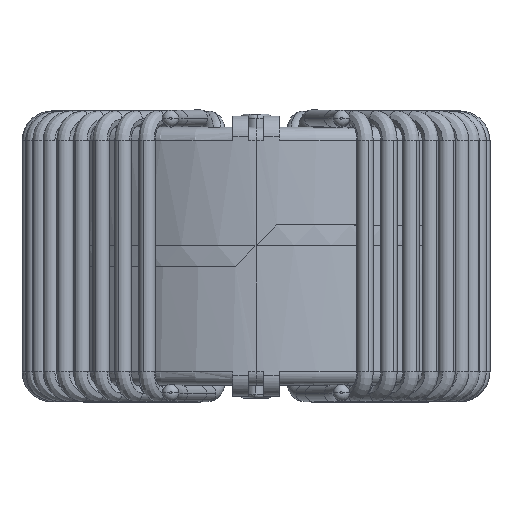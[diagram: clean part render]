
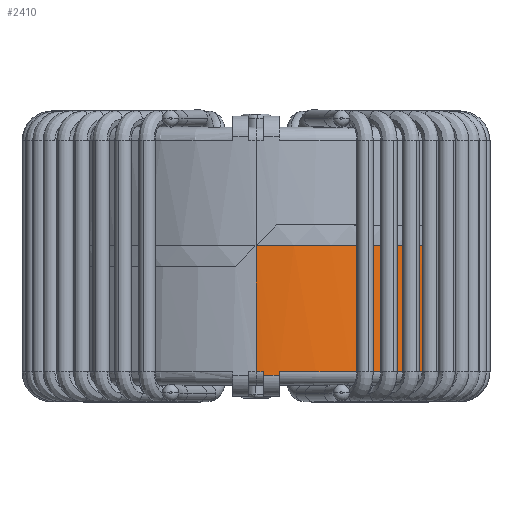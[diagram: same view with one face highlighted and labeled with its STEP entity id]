
A CAD part, top view. The second image highlights one B-rep face of the part: STEP entity #2410.
In plain terms, the highlighted cylindrical face has radius 10.6 mm (diameter 21.2 mm), a partial arc.
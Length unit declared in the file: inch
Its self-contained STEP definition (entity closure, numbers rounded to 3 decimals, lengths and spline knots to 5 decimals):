
#278 = VECTOR ( 'NONE', #5759, 39.37008 ) ;
#494 = DIRECTION ( 'NONE',  ( 0., -1., 0. ) ) ;
#837 = DIRECTION ( 'NONE',  ( 0., 0., 1. ) ) ;
#1098 = AXIS2_PLACEMENT_3D ( 'NONE', #17716, #2067, #837 ) ;
#2067 = DIRECTION ( 'NONE',  ( 0., 1., 0. ) ) ;
#2249 = EDGE_CURVE ( 'NONE', #38046, #4300, #4478, .T. ) ;
#2410 = ADVANCED_FACE ( 'NONE', ( #32031 ), #27023, .T. ) ;
#2543 = VERTEX_POINT ( 'NONE', #14022 ) ;
#2873 = VECTOR ( 'NONE', #6278, 39.37008 ) ;
#2923 = ORIENTED_EDGE ( 'NONE', *, *, #5290, .F. ) ;
#3090 = VECTOR ( 'NONE', #494, 39.37008 ) ;
#4300 = VERTEX_POINT ( 'NONE', #6267 ) ;
#4345 = VERTEX_POINT ( 'NONE', #36290 ) ;
#4478 = LINE ( 'NONE', #9454, #11757 ) ;
#4542 = CARTESIAN_POINT ( 'NONE',  ( 0., 0.24671, 0. ) ) ;
#4811 = ORIENTED_EDGE ( 'NONE', *, *, #30402, .F. ) ;
#5145 = DIRECTION ( 'NONE',  ( 0., 0., 1. ) ) ;
#5182 = DIRECTION ( 'NONE',  ( 0., 0., 1. ) ) ;
#5290 = EDGE_CURVE ( 'NONE', #6655, #13162, #30756, .T. ) ;
#5759 = DIRECTION ( 'NONE',  ( 0., -1., 0. ) ) ;
#6267 = CARTESIAN_POINT ( 'NONE',  ( 0.04429, -0.22835, -0.41497 ) ) ;
#6278 = DIRECTION ( 'NONE',  ( 0., -1., 0. ) ) ;
#6356 = DIRECTION ( 'NONE',  ( 0., -1., 0. ) ) ;
#6394 = DIRECTION ( 'NONE',  ( 0., 1., 0. ) ) ;
#6655 = VERTEX_POINT ( 'NONE', #22493 ) ;
#6715 = AXIS2_PLACEMENT_3D ( 'NONE', #4542, #35757, #10839 ) ;
#6997 = LINE ( 'NONE', #11419, #22985 ) ;
#7267 = EDGE_CURVE ( 'NONE', #2543, #35714, #20239, .T. ) ;
#7640 = DIRECTION ( 'NONE',  ( 0., -1., 0. ) ) ;
#7769 = CIRCLE ( 'NONE', #19966, 0.41732 ) ;
#7991 = CIRCLE ( 'NONE', #1098, 0.41732 ) ;
#8044 = EDGE_CURVE ( 'NONE', #22014, #38046, #7769, .T. ) ;
#9126 = CARTESIAN_POINT ( 'NONE',  ( 0., -0.22112, 0. ) ) ;
#9372 = EDGE_CURVE ( 'NONE', #35714, #26472, #24212, .T. ) ;
#9401 = CARTESIAN_POINT ( 'NONE',  ( 0., -0.22112, 0. ) ) ;
#9454 = CARTESIAN_POINT ( 'NONE',  ( 0.04429, 0.26772, -0.41497 ) ) ;
#9681 = CARTESIAN_POINT ( 'NONE',  ( 0.01476, -0.22835, 0.41706 ) ) ;
#10323 = ORIENTED_EDGE ( 'NONE', *, *, #2249, .T. ) ;
#10727 = DIRECTION ( 'NONE',  ( 0., -1., 0. ) ) ;
#10839 = DIRECTION ( 'NONE',  ( 0., 0., -1. ) ) ;
#11405 = CARTESIAN_POINT ( 'NONE',  ( 0., 0.24671, -0.41732 ) ) ;
#11419 = CARTESIAN_POINT ( 'NONE',  ( 0., 0.24671, 0.41732 ) ) ;
#11711 = ORIENTED_EDGE ( 'NONE', *, *, #29955, .T. ) ;
#11757 = VECTOR ( 'NONE', #10727, 39.37008 ) ;
#12213 = ORIENTED_EDGE ( 'NONE', *, *, #15375, .T. ) ;
#12439 = AXIS2_PLACEMENT_3D ( 'NONE', #19249, #37394, #38642 ) ;
#12860 = VECTOR ( 'NONE', #6356, 39.37008 ) ;
#13162 = VERTEX_POINT ( 'NONE', #37148 ) ;
#13192 = VERTEX_POINT ( 'NONE', #35286 ) ;
#14022 = CARTESIAN_POINT ( 'NONE',  ( 0., -0.22112, 0.41732 ) ) ;
#14133 = ORIENTED_EDGE ( 'NONE', *, *, #27937, .T. ) ;
#14193 = DIRECTION ( 'NONE',  ( 0., 0., 1. ) ) ;
#14395 = VERTEX_POINT ( 'NONE', #16660 ) ;
#14678 = ORIENTED_EDGE ( 'NONE', *, *, #22455, .F. ) ;
#14697 = CARTESIAN_POINT ( 'NONE',  ( 0.04429, 0.26772, 0.41497 ) ) ;
#15183 = CARTESIAN_POINT ( 'NONE',  ( 0.04429, -0.22112, 0.41497 ) ) ;
#15191 = VERTEX_POINT ( 'NONE', #38645 ) ;
#15375 = EDGE_CURVE ( 'NONE', #26472, #24551, #31520, .T. ) ;
#15461 = ORIENTED_EDGE ( 'NONE', *, *, #35275, .F. ) ;
#16072 = ORIENTED_EDGE ( 'NONE', *, *, #27063, .F. ) ;
#16660 = CARTESIAN_POINT ( 'NONE',  ( 0., 0.02008, -0.41732 ) ) ;
#16744 = ORIENTED_EDGE ( 'NONE', *, *, #22502, .T. ) ;
#17371 = CARTESIAN_POINT ( 'NONE',  ( 0.01476, 0.26772, 0.41706 ) ) ;
#17716 = CARTESIAN_POINT ( 'NONE',  ( 0., 0.02008, 0. ) ) ;
#17781 = CIRCLE ( 'NONE', #25153, 0.41732 ) ;
#18574 = EDGE_CURVE ( 'NONE', #15191, #2543, #6997, .T. ) ;
#18706 = VERTEX_POINT ( 'NONE', #24570 ) ;
#19249 = CARTESIAN_POINT ( 'NONE',  ( 0., -0.22835, 0. ) ) ;
#19422 = CARTESIAN_POINT ( 'NONE',  ( 0., 0.24671, 0.41732 ) ) ;
#19677 = DIRECTION ( 'NONE',  ( 0., -1., 0. ) ) ;
#19966 = AXIS2_PLACEMENT_3D ( 'NONE', #9126, #31014, #14193 ) ;
#20180 = LINE ( 'NONE', #32078, #21833 ) ;
#20194 = DIRECTION ( 'NONE',  ( 0., 1., 0. ) ) ;
#20239 = CIRCLE ( 'NONE', #26459, 0.41732 ) ;
#21578 = AXIS2_PLACEMENT_3D ( 'NONE', #29572, #20194, #5182 ) ;
#21833 = VECTOR ( 'NONE', #37711, 39.37008 ) ;
#22014 = VERTEX_POINT ( 'NONE', #15183 ) ;
#22050 = CARTESIAN_POINT ( 'NONE',  ( 0., -0.22112, 0. ) ) ;
#22455 = EDGE_CURVE ( 'NONE', #4345, #18706, #37672, .T. ) ;
#22493 = CARTESIAN_POINT ( 'NONE',  ( 0., 0.01969, -0.41732 ) ) ;
#22502 = EDGE_CURVE ( 'NONE', #4300, #18706, #36108, .T. ) ;
#22696 = CARTESIAN_POINT ( 'NONE',  ( 0.01476, 0.26772, -0.41706 ) ) ;
#22848 = CARTESIAN_POINT ( 'NONE',  ( 0.01476, -0.22112, 0.41706 ) ) ;
#22985 = VECTOR ( 'NONE', #7640, 39.37008 ) ;
#24212 = LINE ( 'NONE', #17371, #3090 ) ;
#24551 = VERTEX_POINT ( 'NONE', #28322 ) ;
#24570 = CARTESIAN_POINT ( 'NONE',  ( 0.01476, -0.22835, -0.41706 ) ) ;
#25153 = AXIS2_PLACEMENT_3D ( 'NONE', #9401, #36931, #28815 ) ;
#26459 = AXIS2_PLACEMENT_3D ( 'NONE', #22050, #6394, #5145 ) ;
#26472 = VERTEX_POINT ( 'NONE', #9681 ) ;
#27023 = CYLINDRICAL_SURFACE ( 'NONE', #6715, 0.41732 ) ;
#27063 = EDGE_CURVE ( 'NONE', #14395, #6655, #20180, .T. ) ;
#27937 = EDGE_CURVE ( 'NONE', #4345, #13162, #17781, .T. ) ;
#28322 = CARTESIAN_POINT ( 'NONE',  ( 0.04429, -0.22835, 0.41497 ) ) ;
#28815 = DIRECTION ( 'NONE',  ( 0., 0., 1. ) ) ;
#29572 = CARTESIAN_POINT ( 'NONE',  ( 0., -0.22835, 0. ) ) ;
#29955 = EDGE_CURVE ( 'NONE', #13192, #15191, #36268, .T. ) ;
#30402 = EDGE_CURVE ( 'NONE', #22014, #24551, #34033, .T. ) ;
#30756 = LINE ( 'NONE', #11405, #12860 ) ;
#31014 = DIRECTION ( 'NONE',  ( 0., 1., 0. ) ) ;
#31520 = CIRCLE ( 'NONE', #12439, 0.41732 ) ;
#32031 = FACE_OUTER_BOUND ( 'NONE', #37520, .T. ) ;
#32078 = CARTESIAN_POINT ( 'NONE',  ( 0., 0.24671, -0.41732 ) ) ;
#34033 = LINE ( 'NONE', #14697, #38235 ) ;
#35275 = EDGE_CURVE ( 'NONE', #13192, #14395, #7991, .T. ) ;
#35286 = CARTESIAN_POINT ( 'NONE',  ( 0., 0.02008, 0.41732 ) ) ;
#35714 = VERTEX_POINT ( 'NONE', #22848 ) ;
#35757 = DIRECTION ( 'NONE',  ( 0., -1., 0. ) ) ;
#35912 = CARTESIAN_POINT ( 'NONE',  ( 0.04429, -0.22112, -0.41497 ) ) ;
#35959 = ORIENTED_EDGE ( 'NONE', *, *, #18574, .T. ) ;
#36108 = CIRCLE ( 'NONE', #21578, 0.41732 ) ;
#36268 = LINE ( 'NONE', #19422, #2873 ) ;
#36290 = CARTESIAN_POINT ( 'NONE',  ( 0.01476, -0.22112, -0.41706 ) ) ;
#36645 = ORIENTED_EDGE ( 'NONE', *, *, #7267, .T. ) ;
#36931 = DIRECTION ( 'NONE',  ( 0., 1., 0. ) ) ;
#37148 = CARTESIAN_POINT ( 'NONE',  ( 0., -0.22112, -0.41732 ) ) ;
#37394 = DIRECTION ( 'NONE',  ( 0., 1., 0. ) ) ;
#37520 = EDGE_LOOP ( 'NONE', ( #15461, #11711, #35959, #36645, #38594, #12213, #4811, #38450, #10323, #16744, #14678, #14133, #2923, #16072 ) ) ;
#37672 = LINE ( 'NONE', #22696, #278 ) ;
#37711 = DIRECTION ( 'NONE',  ( 0., -1., 0. ) ) ;
#38046 = VERTEX_POINT ( 'NONE', #35912 ) ;
#38235 = VECTOR ( 'NONE', #19677, 39.37008 ) ;
#38450 = ORIENTED_EDGE ( 'NONE', *, *, #8044, .T. ) ;
#38594 = ORIENTED_EDGE ( 'NONE', *, *, #9372, .T. ) ;
#38642 = DIRECTION ( 'NONE',  ( 0., 0., -1. ) ) ;
#38645 = CARTESIAN_POINT ( 'NONE',  ( 0., 0.01969, 0.41732 ) ) ;
